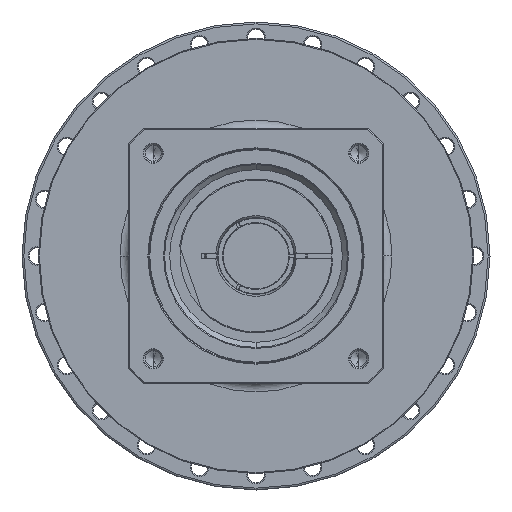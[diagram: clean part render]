
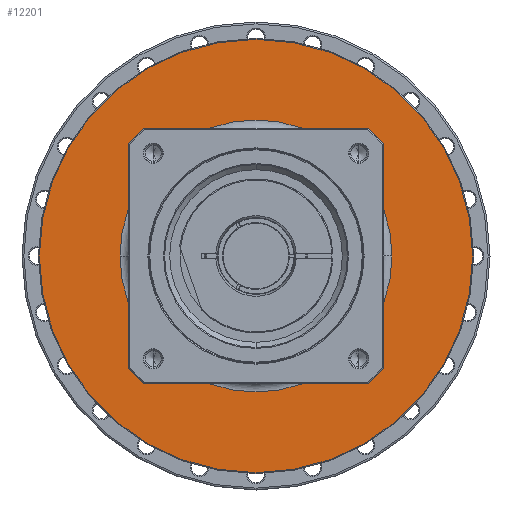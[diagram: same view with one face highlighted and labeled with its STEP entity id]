
A CAD part, left-side view. The second image highlights one B-rep face of the part: STEP entity #12201.
In plain terms, the highlighted planar face has unit normal (-1, 0, 0) as drawn and (1, 0, 0) by its records, which use the part's own axes.
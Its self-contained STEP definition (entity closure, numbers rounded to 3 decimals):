
#11680=CARTESIAN_POINT('',(-7.5,0.,0.));
#11681=DIRECTION('',(-1.,0.,0.));
#11682=DIRECTION('',(0.,-1.,0.));
#11683=AXIS2_PLACEMENT_3D('',#11680,#11681,#11682);
#11685=CARTESIAN_POINT('',(-7.5,0.,0.));
#11686=DIRECTION('',(-1.,0.,0.));
#11687=DIRECTION('',(0.,1.,0.));
#11688=AXIS2_PLACEMENT_3D('',#11685,#11686,#11687);
#11690=CARTESIAN_POINT('',(-7.5,0.,0.));
#11691=DIRECTION('',(-1.,0.,0.));
#11692=DIRECTION('',(0.,-1.,0.));
#11693=AXIS2_PLACEMENT_3D('',#11690,#11691,#11692);
#11695=CARTESIAN_POINT('',(-7.5,0.,0.));
#11696=DIRECTION('',(-1.,0.,0.));
#11697=DIRECTION('',(0.,1.,0.));
#11698=AXIS2_PLACEMENT_3D('',#11695,#11696,#11697);
#11764=CARTESIAN_POINT('',(-7.5,-115.5,0.));
#11765=CARTESIAN_POINT('',(-7.5,115.5,0.));
#11766=VERTEX_POINT('',#11764);
#11767=VERTEX_POINT('',#11765);
#11788=CARTESIAN_POINT('',(-7.5,-72.5,0.));
#11789=CARTESIAN_POINT('',(-7.5,72.5,0.));
#11790=VERTEX_POINT('',#11788);
#11791=VERTEX_POINT('',#11789);
#12186=CARTESIAN_POINT('',(-7.5,0.,0.));
#12187=DIRECTION('',(1.,0.,0.));
#12188=DIRECTION('',(0.,-1.,0.));
#12189=AXIS2_PLACEMENT_3D('',#12186,#12187,#12188);
#12190=PLANE('',#12189);
#12191=ORIENTED_EDGE('',*,*,#12127,.T.);
#12192=ORIENTED_EDGE('',*,*,#12142,.T.);
#12193=EDGE_LOOP('',(#12191,#12192));
#12194=FACE_OUTER_BOUND('',#12193,.F.);
#12196=ORIENTED_EDGE('',*,*,#12195,.F.);
#12198=ORIENTED_EDGE('',*,*,#12197,.F.);
#12199=EDGE_LOOP('',(#12196,#12198));
#12200=FACE_BOUND('',#12199,.F.);
#12201=ADVANCED_FACE('',(#12194,#12200),#12190,.T.);
#11684=CIRCLE('',#11683,72.5);
#11689=CIRCLE('',#11688,72.5);
#11694=CIRCLE('',#11693,115.5);
#11699=CIRCLE('',#11698,115.5);
#12127=EDGE_CURVE('',#11766,#11767,#11694,.T.);
#12142=EDGE_CURVE('',#11767,#11766,#11699,.T.);
#12195=EDGE_CURVE('',#11790,#11791,#11684,.T.);
#12197=EDGE_CURVE('',#11791,#11790,#11689,.T.);
